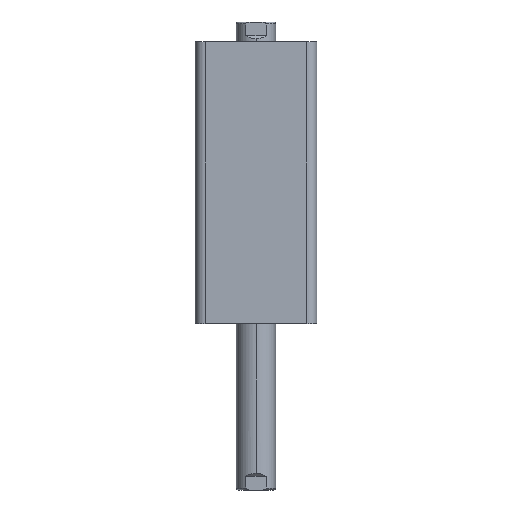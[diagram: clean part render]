
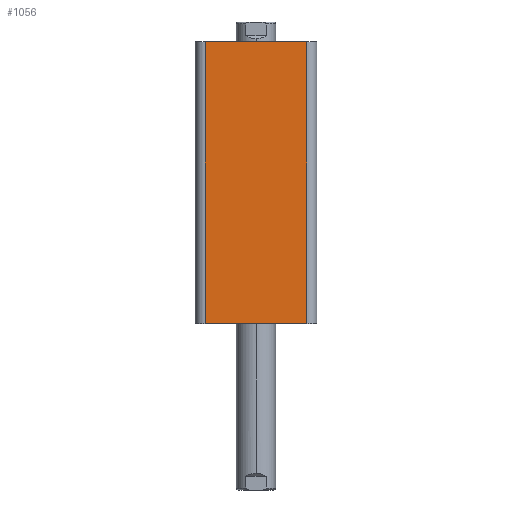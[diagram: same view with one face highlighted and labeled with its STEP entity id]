
A CAD part, left-side view. The second image highlights one B-rep face of the part: STEP entity #1056.
In plain terms, the highlighted planar face has unit normal (-1, 0, 0).
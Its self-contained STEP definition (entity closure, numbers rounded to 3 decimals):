
#121 = EDGE_CURVE ( 'NONE', #1220, #1205, #2865, .T. ) ;
#122 = EDGE_CURVE ( 'NONE', #1205, #1207, #2861, .T. ) ;
#123 = EDGE_CURVE ( 'NONE', #1218, #1207, #2869, .T. ) ;
#124 = EDGE_CURVE ( 'NONE', #1218, #1220, #2871, .T. ) ;
#692 = CARTESIAN_POINT ( 'NONE',  ( -31., -26., 144. ) ) ;
#699 = CARTESIAN_POINT ( 'NONE',  ( -31., -26., 0. ) ) ;
#711 = CARTESIAN_POINT ( 'NONE',  ( -31., 26., 144. ) ) ;
#713 = CARTESIAN_POINT ( 'NONE',  ( -31., 26., 0. ) ) ;
#1056 = ADVANCED_FACE ( 'NONE', ( #2914 ), #2218, .F. ) ;
#1205 = VERTEX_POINT ( 'NONE', #699 ) ;
#1207 = VERTEX_POINT ( 'NONE', #692 ) ;
#1218 = VERTEX_POINT ( 'NONE', #711 ) ;
#1220 = VERTEX_POINT ( 'NONE', #713 ) ;
#1259 = ORIENTED_EDGE ( 'NONE', *, *, #124, .T. ) ;
#1268 = ORIENTED_EDGE ( 'NONE', *, *, #123, .F. ) ;
#1280 = ORIENTED_EDGE ( 'NONE', *, *, #122, .T. ) ;
#1282 = ORIENTED_EDGE ( 'NONE', *, *, #121, .T. ) ;
#1604 = CARTESIAN_POINT ( 'NONE',  ( -31., -26., 144. ) ) ;
#1615 = CARTESIAN_POINT ( 'NONE',  ( -31., 31., 0. ) ) ;
#1617 = DIRECTION ( 'NONE',  ( 0., -1., 0. ) ) ;
#1618 = DIRECTION ( 'NONE',  ( 0., 0., 1. ) ) ;
#1619 = CARTESIAN_POINT ( 'NONE',  ( -31., 31., 144. ) ) ;
#1620 = DIRECTION ( 'NONE',  ( 0., -1., 0. ) ) ;
#1621 = CARTESIAN_POINT ( 'NONE',  ( -31., 26., 144. ) ) ;
#1622 = DIRECTION ( 'NONE',  ( 0., 0., -1. ) ) ;
#1853 = AXIS2_PLACEMENT_3D ( 'NONE', #2212, #2220, #2221 ) ;
#2015 = EDGE_LOOP ( 'NONE', ( #1282, #1280, #1268, #1259 ) ) ;
#2212 = CARTESIAN_POINT ( 'NONE',  ( -31., 31., 144. ) ) ;
#2218 = PLANE ( 'NONE',  #1853 ) ;
#2220 = DIRECTION ( 'NONE',  ( 1., 0., 0. ) ) ;
#2221 = DIRECTION ( 'NONE',  ( 0., 1., 0. ) ) ;
#2861 = LINE ( 'NONE', #1604, #2870 ) ;
#2865 = LINE ( 'NONE', #1615, #2868 ) ;
#2868 = VECTOR ( 'NONE', #1617, 1000. ) ;
#2869 = LINE ( 'NONE', #1619, #2872 ) ;
#2870 = VECTOR ( 'NONE', #1618, 1000. ) ;
#2871 = LINE ( 'NONE', #1621, #2874 ) ;
#2872 = VECTOR ( 'NONE', #1620, 1000. ) ;
#2874 = VECTOR ( 'NONE', #1622, 1000. ) ;
#2914 = FACE_OUTER_BOUND ( 'NONE', #2015, .T. ) ;
